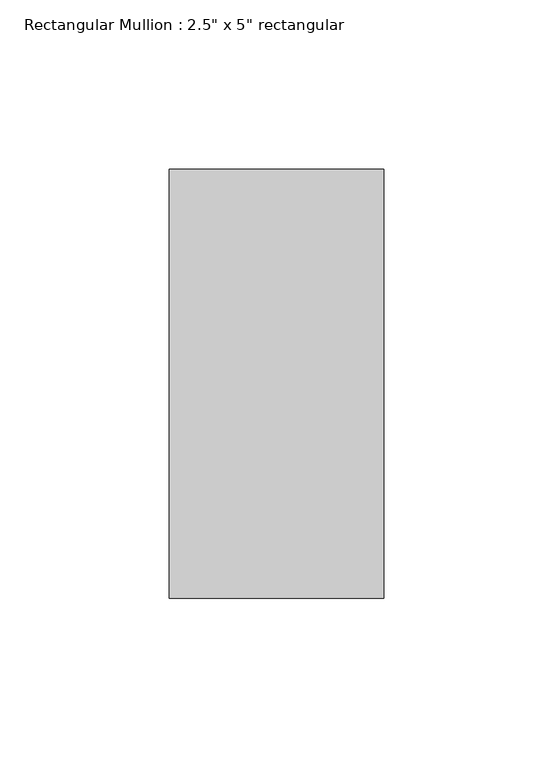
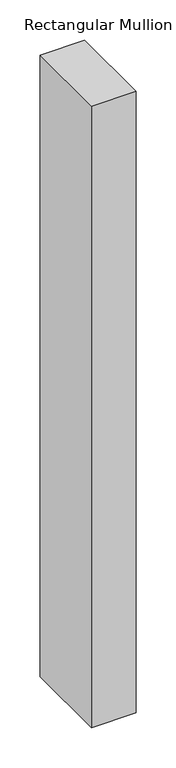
"""IFC4 building model written with IfcOpenShell, lengths in millimetres: member geometry."""

from ifc_helpers import new_model, si_unit, frame, origin, place, context, project, spatial, polyline, outline, extrude, source, transform, mapped, element, save


def member_ca079636(model_context):
    return source(origin(), model_context, "Body", "SweptSolid", [
        extrude(outline(polyline([(31.75, 63.5), (31.75, -63.5), (-31.75, -63.5), (-31.75, 63.5), (31.75, 63.5)])), frame((0.0, 0.0, -939.8), z_axis=(0.0, 0.0, 1.0), x_axis=(1.0, 0.0, 0.0)), (0.0, 0.0, 1.0), 939.8),
    ])


if __name__ == "__main__":
    model = new_model("IFC4")
    model_context = context("Model", 3, world=origin())
    ifc_project = project(units=[si_unit("LENGTHUNIT", "METRE", prefix="MILLI")], contexts=[model_context])
    site = spatial("IfcSite", under=ifc_project)
    building = spatial("IfcBuilding", under=site)
    placement = place(None, origin())
    member_shape = member_ca079636(model_context)
    element("IfcMember", 1, ObjectType="Rectangular Mullion : 2.5\" x 5\" rectangular", at=placement, inside=building, context=model_context, shape_type="MappedRepresentation", body=[
        mapped(member_shape, transform((0.0, 0.0, 0.0), x_axis=(1.0, 0.0, 0.0), y_axis=(0.0, 1.0, 0.0), z_axis=(0.0, 0.0, 1.0))),
    ])
    save(model, "model.ifc")
